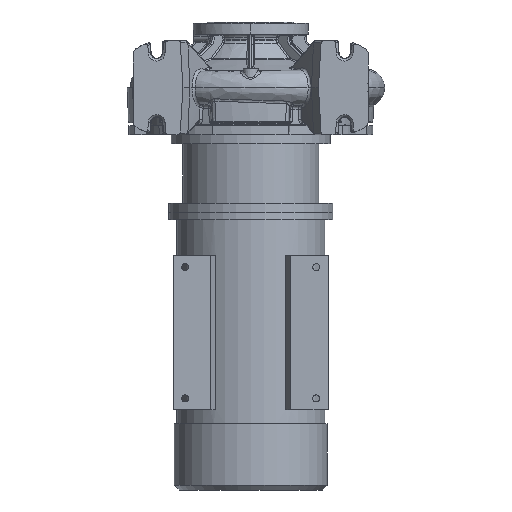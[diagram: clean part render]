
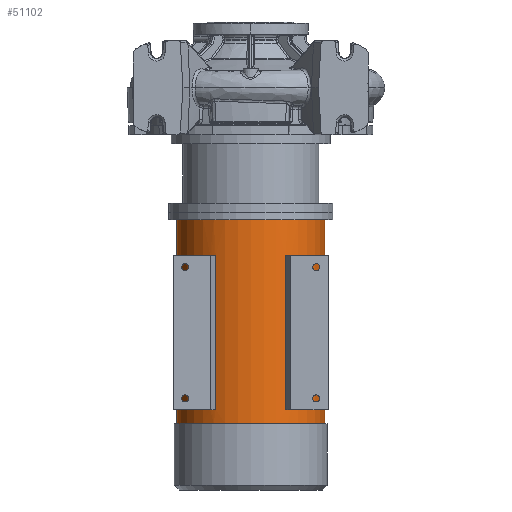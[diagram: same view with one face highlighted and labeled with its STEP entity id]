
A CAD part, front view. The second image highlights one B-rep face of the part: STEP entity #51102.
In plain terms, the highlighted cylindrical face has radius 157.5 mm (diameter 315 mm), a partial arc.
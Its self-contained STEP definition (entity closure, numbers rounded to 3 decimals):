
#542 = LINE ( 'NONE', #24028, #78667 ) ;
#1661 = EDGE_CURVE ( 'NONE', #25294, #12231, #21165, .T. ) ;
#1731 = AXIS2_PLACEMENT_3D ( 'NONE', #68800, #13289, #54739 ) ;
#1903 = CARTESIAN_POINT ( 'NONE',  ( -157.5, 0., -280.8 ) ) ;
#4868 = CARTESIAN_POINT ( 'NONE',  ( 0., 0., -685.3 ) ) ;
#5659 = VECTOR ( 'NONE', #75507, 1000. ) ;
#6813 = AXIS2_PLACEMENT_3D ( 'NONE', #18449, #75523, #32804 ) ;
#6853 = AXIS2_PLACEMENT_3D ( 'NONE', #19404, #39633, #68364 ) ;
#8581 = CARTESIAN_POINT ( 'NONE',  ( 86.091, -131.889, -357.3 ) ) ;
#9730 = AXIS2_PLACEMENT_3D ( 'NONE', #66444, #30594, #23731 ) ;
#11560 = DIRECTION ( 'NONE',  ( 0., 0., -1. ) ) ;
#12231 = VERTEX_POINT ( 'NONE', #85521 ) ;
#12475 = VERTEX_POINT ( 'NONE', #32484 ) ;
#12848 = ORIENTED_EDGE ( 'NONE', *, *, #61941, .F. ) ;
#13289 = DIRECTION ( 'NONE',  ( 0., 0., -1. ) ) ;
#15997 = EDGE_CURVE ( 'NONE', #66662, #36888, #47656, .T. ) ;
#16172 = LINE ( 'NONE', #56075, #17234 ) ;
#16590 = FACE_BOUND ( 'NONE', #92403, .T. ) ;
#17234 = VECTOR ( 'NONE', #76037, 1000. ) ;
#18025 = CARTESIAN_POINT ( 'NONE',  ( -74.479, -138.777, -357.3 ) ) ;
#18193 = CARTESIAN_POINT ( 'NONE',  ( -74.479, -138.777, -685.3 ) ) ;
#18449 = CARTESIAN_POINT ( 'NONE',  ( 0., 0., -357.3 ) ) ;
#19404 = CARTESIAN_POINT ( 'NONE',  ( 0., 0., -280.8 ) ) ;
#19661 = VERTEX_POINT ( 'NONE', #56887 ) ;
#20634 = LINE ( 'NONE', #84583, #45164 ) ;
#21165 = CIRCLE ( 'NONE', #91759, 157.5 ) ;
#21449 = ORIENTED_EDGE ( 'NONE', *, *, #64535, .F. ) ;
#22211 = ORIENTED_EDGE ( 'NONE', *, *, #57192, .F. ) ;
#22423 = CARTESIAN_POINT ( 'NONE',  ( 0., 0., -685.3 ) ) ;
#23586 = ORIENTED_EDGE ( 'NONE', *, *, #57178, .F. ) ;
#23731 = DIRECTION ( 'NONE',  ( 1., 0., 0. ) ) ;
#24028 = CARTESIAN_POINT ( 'NONE',  ( -157.5, 0., -855.8 ) ) ;
#24671 = ORIENTED_EDGE ( 'NONE', *, *, #85769, .F. ) ;
#25294 = VERTEX_POINT ( 'NONE', #18193 ) ;
#25941 = CARTESIAN_POINT ( 'NONE',  ( 86.091, -131.889, -855.8 ) ) ;
#28095 = EDGE_CURVE ( 'NONE', #12475, #19661, #64788, .T. ) ;
#29884 = CIRCLE ( 'NONE', #9730, 157.5 ) ;
#30205 = DIRECTION ( 'NONE',  ( -1., 0., 0. ) ) ;
#30594 = DIRECTION ( 'NONE',  ( 0., 0., -1. ) ) ;
#32484 = CARTESIAN_POINT ( 'NONE',  ( 74.479, -138.777, -685.3 ) ) ;
#32804 = DIRECTION ( 'NONE',  ( -1., 0., 0. ) ) ;
#36504 = DIRECTION ( 'NONE',  ( 0., 0., -1. ) ) ;
#36888 = VERTEX_POINT ( 'NONE', #1903 ) ;
#37029 = DIRECTION ( 'NONE',  ( 0., 0., 1. ) ) ;
#38913 = AXIS2_PLACEMENT_3D ( 'NONE', #22423, #37029, #30205 ) ;
#39301 = DIRECTION ( 'NONE',  ( -1., 0., 0. ) ) ;
#39435 = CIRCLE ( 'NONE', #76360, 157.5 ) ;
#39633 = DIRECTION ( 'NONE',  ( 0., 0., -1. ) ) ;
#40544 = VERTEX_POINT ( 'NONE', #8581 ) ;
#41042 = EDGE_CURVE ( 'NONE', #56855, #40544, #68614, .T. ) ;
#42102 = CARTESIAN_POINT ( 'NONE',  ( -86.091, -131.889, -357.3 ) ) ;
#42577 = DIRECTION ( 'NONE',  ( 1., 0., 0. ) ) ;
#45164 = VECTOR ( 'NONE', #36504, 1000. ) ;
#47656 = CIRCLE ( 'NONE', #6853, 157.5 ) ;
#49171 = VERTEX_POINT ( 'NONE', #18025 ) ;
#51102 = ADVANCED_FACE ( 'NONE', ( #70248, #75784, #16590 ), #71302, .T. ) ;
#53967 = EDGE_LOOP ( 'NONE', ( #66163, #79787, #91829, #88522 ) ) ;
#54739 = DIRECTION ( 'NONE',  ( -1., 0., 0. ) ) ;
#56075 = CARTESIAN_POINT ( 'NONE',  ( 157.5, 0., -855.8 ) ) ;
#56855 = VERTEX_POINT ( 'NONE', #82082 ) ;
#56887 = CARTESIAN_POINT ( 'NONE',  ( 86.091, -131.889, -685.3 ) ) ;
#57178 = EDGE_CURVE ( 'NONE', #49171, #57608, #29884, .T. ) ;
#57192 = EDGE_CURVE ( 'NONE', #25294, #49171, #87964, .T. ) ;
#57608 = VERTEX_POINT ( 'NONE', #42102 ) ;
#57638 = EDGE_LOOP ( 'NONE', ( #12848, #66843, #89194, #21449 ) ) ;
#60043 = VECTOR ( 'NONE', #73616, 1000. ) ;
#61157 = CARTESIAN_POINT ( 'NONE',  ( 74.479, -138.777, -855.8 ) ) ;
#61941 = EDGE_CURVE ( 'NONE', #66662, #75826, #16172, .T. ) ;
#63141 = EDGE_CURVE ( 'NONE', #40544, #19661, #68567, .T. ) ;
#64535 = EDGE_CURVE ( 'NONE', #75826, #67513, #39435, .T. ) ;
#64788 = CIRCLE ( 'NONE', #38913, 157.5 ) ;
#65516 = DIRECTION ( 'NONE',  ( 0., 0., -1. ) ) ;
#66163 = ORIENTED_EDGE ( 'NONE', *, *, #28095, .F. ) ;
#66304 = VECTOR ( 'NONE', #88934, 1000. ) ;
#66444 = CARTESIAN_POINT ( 'NONE',  ( 0., 0., -357.3 ) ) ;
#66662 = VERTEX_POINT ( 'NONE', #84884 ) ;
#66843 = ORIENTED_EDGE ( 'NONE', *, *, #15997, .T. ) ;
#67037 = LINE ( 'NONE', #61157, #5659 ) ;
#67513 = VERTEX_POINT ( 'NONE', #70868 ) ;
#68364 = DIRECTION ( 'NONE',  ( -1., 0., 0. ) ) ;
#68567 = LINE ( 'NONE', #25941, #66304 ) ;
#68614 = CIRCLE ( 'NONE', #6813, 157.5 ) ;
#68800 = CARTESIAN_POINT ( 'NONE',  ( 0., 0., -855.8 ) ) ;
#70248 = FACE_OUTER_BOUND ( 'NONE', #57638, .T. ) ;
#70669 = EDGE_CURVE ( 'NONE', #12475, #56855, #67037, .T. ) ;
#70868 = CARTESIAN_POINT ( 'NONE',  ( -157.5, 0., -714.8 ) ) ;
#71302 = CYLINDRICAL_SURFACE ( 'NONE', #1731, 157.5 ) ;
#73616 = DIRECTION ( 'NONE',  ( 0., 0., 1. ) ) ;
#74152 = ORIENTED_EDGE ( 'NONE', *, *, #1661, .T. ) ;
#75507 = DIRECTION ( 'NONE',  ( 0., 0., 1. ) ) ;
#75523 = DIRECTION ( 'NONE',  ( 0., 0., 1. ) ) ;
#75784 = FACE_BOUND ( 'NONE', #53967, .T. ) ;
#75826 = VERTEX_POINT ( 'NONE', #76543 ) ;
#76005 = DIRECTION ( 'NONE',  ( 0., 0., -1. ) ) ;
#76037 = DIRECTION ( 'NONE',  ( 0., 0., -1. ) ) ;
#76360 = AXIS2_PLACEMENT_3D ( 'NONE', #90470, #11560, #39301 ) ;
#76543 = CARTESIAN_POINT ( 'NONE',  ( 157.5, 0., -714.8 ) ) ;
#78667 = VECTOR ( 'NONE', #65516, 1000. ) ;
#79787 = ORIENTED_EDGE ( 'NONE', *, *, #70669, .T. ) ;
#81070 = CARTESIAN_POINT ( 'NONE',  ( -74.479, -138.777, -855.8 ) ) ;
#82082 = CARTESIAN_POINT ( 'NONE',  ( 74.479, -138.777, -357.3 ) ) ;
#84583 = CARTESIAN_POINT ( 'NONE',  ( -86.091, -131.889, -855.8 ) ) ;
#84884 = CARTESIAN_POINT ( 'NONE',  ( 157.5, 0., -280.8 ) ) ;
#85521 = CARTESIAN_POINT ( 'NONE',  ( -86.091, -131.889, -685.3 ) ) ;
#85769 = EDGE_CURVE ( 'NONE', #57608, #12231, #20634, .T. ) ;
#85846 = EDGE_CURVE ( 'NONE', #36888, #67513, #542, .T. ) ;
#87964 = LINE ( 'NONE', #81070, #60043 ) ;
#88522 = ORIENTED_EDGE ( 'NONE', *, *, #63141, .T. ) ;
#88934 = DIRECTION ( 'NONE',  ( 0., 0., -1. ) ) ;
#89194 = ORIENTED_EDGE ( 'NONE', *, *, #85846, .T. ) ;
#90470 = CARTESIAN_POINT ( 'NONE',  ( 0., 0., -714.8 ) ) ;
#91759 = AXIS2_PLACEMENT_3D ( 'NONE', #4868, #76005, #42577 ) ;
#91829 = ORIENTED_EDGE ( 'NONE', *, *, #41042, .T. ) ;
#92403 = EDGE_LOOP ( 'NONE', ( #22211, #74152, #24671, #23586 ) ) ;
